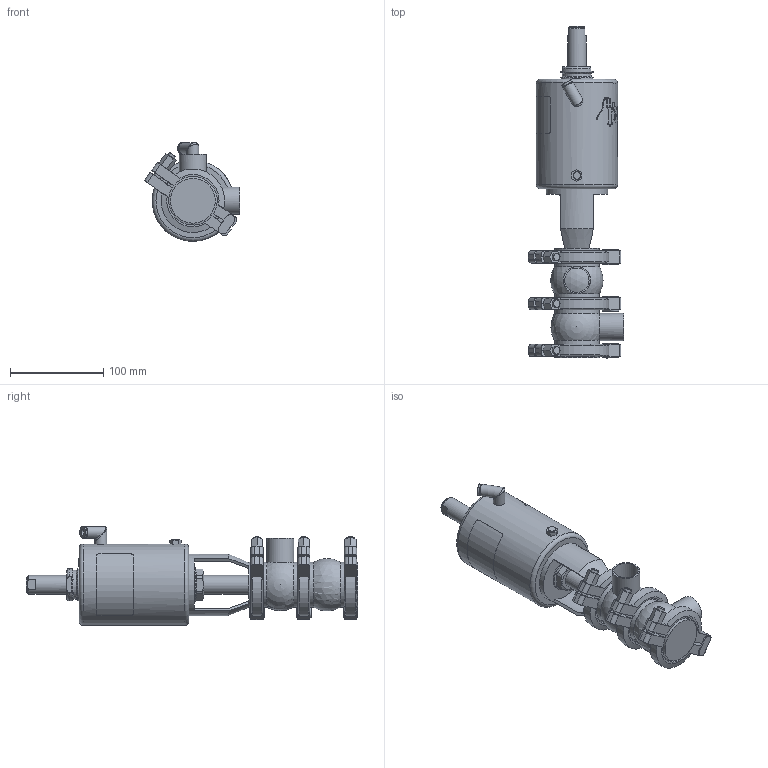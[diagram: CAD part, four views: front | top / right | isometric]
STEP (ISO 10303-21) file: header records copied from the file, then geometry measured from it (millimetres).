
FILE_DESCRIPTION (( 'STEP AP214' ), '1' );
FILE_NAME ('INNOVA M D W DIN 025 T1 AS NC_10.241.16.0010.STEP', '2024-08-07T07:55:17', ( '' ), ( '' ), 'SwSTEP 2.0', 'SolidWorks 2023', '' );
FILE_SCHEMA (( 'AUTOMOTIVE_DESIGN' ));
Length unit declared in the file: millimetre
Products named in the file (6): INNOVA M D W DIN 025 T1 AS NC_10.241.16.0010; 10.241.15.0001_DIN 025; 10.240.15.0001_DN 025; 10.240.15.0006_DIN 025; 10.240.15.0014_T1 AS P180; 10.240.15.0010_DN 025
Assembly tree (8 placements, depth 2):
  INNOVA M D W DIN 025 T1 AS NC_10.241.16.0010
    10.240.15.0006_DIN 025  x2
    10.240.15.0010_DN 025
    10.240.15.0014_T1 AS P180
    10.240.15.0001_DN 025  x3
    10.241.15.0001_DIN 025
Bounding box: 101.94 x 355.09 x 105.75 mm (x, y, z)
Volume: 1118942 mm3; surface area: 163177.9 mm2
Topology: 9 solids, 9 shells, 464 faces, 1233 edges, 802 vertices
Faces by surface type: plane 225, cylinder 111, bspline 80, cone 40, sphere 4, torus 4
Full cylindrical faces by diameter (mm): 6.15 x1, 8 x7, 8.5 x1, 10.5 x1, 12.5 x3, 16 x1, 20 x2, 26 x2, 29 x2, 31 x1, 34.5 x2, 36.5 x1, 48 x6, 59.7 x6, 66 x1, 87 x1
Entity records: 19466 total; most frequent: CARTESIAN_POINT 10214, ORIENTED_EDGE 1626, DIRECTION 1237, EDGE_CURVE 813, VERTEX_POINT 556, AXIS2_PLACEMENT_3D 470, EDGE_LOOP 401, FACE_OUTER_BOUND 365
